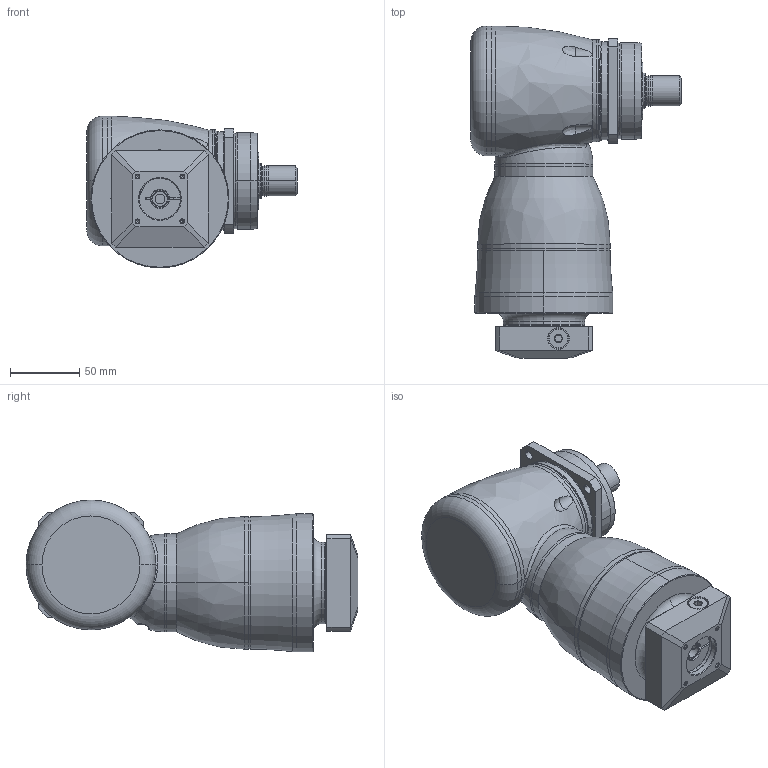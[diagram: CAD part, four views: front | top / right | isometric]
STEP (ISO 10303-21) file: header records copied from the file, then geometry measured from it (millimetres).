
FILE_DESCRIPTION((''),'2;1');
FILE_NAME('KF075_S3_2ST_11-P0409200101_ASM','2016-07-06T',('d01943'),(''),'PRO/ENGINEER BY PARAMETRIC TECHNOLOGY CORPORATION, 2008410','PRO/ENGINEER BY PARAMETRIC TECHNOLOGY CORPORATION, 2008410','');
FILE_SCHEMA(('CONFIG_CONTROL_DESIGN'));
Length unit declared in the file: millimetre
Products named in the file (11): P1008300002; P1804300001; P0915302001; P1315300001; P1007300001; P1317300101; P0409200101; P0503200005; P0912201001; 21711410012; KF075_S3_2ST_11-P0409200101_ASM
Assembly tree (10 placements, depth 2):
  KF075_S3_2ST_11-P0409200101_ASM
    P1008300002
    P1804300001
    P0915302001
    P1315300001
    P1007300001
    P1317300101
    P0409200101
    P0503200005
    P0912201001
    21711410012
Bounding box: 152.5 x 240.5 x 110 mm (x, y, z)
Volume: 1496879.4 mm3; surface area: 185735.9 mm2
Topology: 11 solids, 11 shells, 445 faces, 1013 edges, 598 vertices
Faces by surface type: cylinder 145, cone 114, plane 85, torus 64, bspline 35, sphere 2
Entity records: 19097 total; most frequent: CARTESIAN_POINT 9014, DIRECTION 2208, ORIENTED_EDGE 1962, EDGE_CURVE 981, AXIS2_PLACEMENT_3D 938, VERTEX_POINT 592, CIRCLE 507, EDGE_LOOP 503
